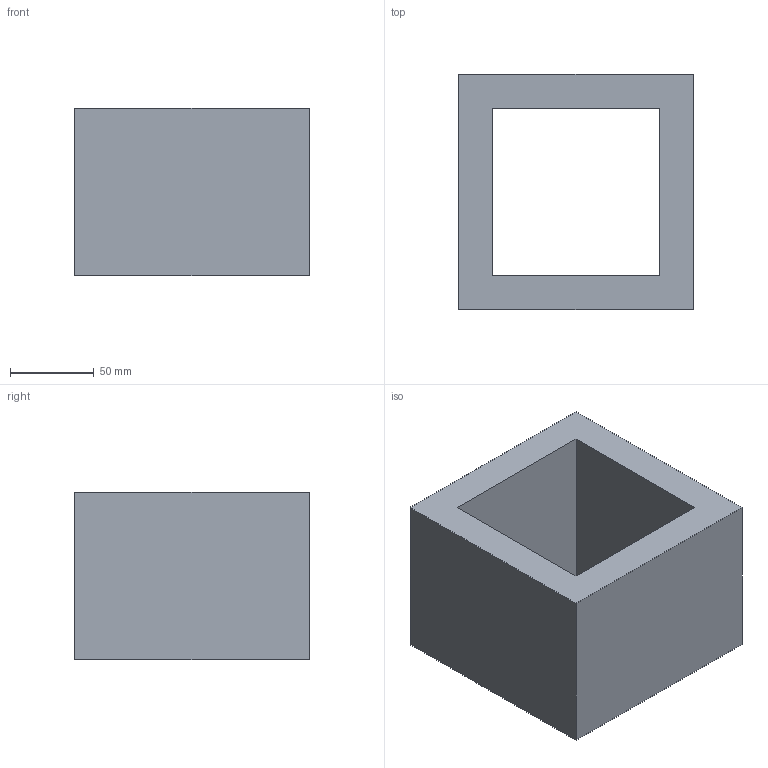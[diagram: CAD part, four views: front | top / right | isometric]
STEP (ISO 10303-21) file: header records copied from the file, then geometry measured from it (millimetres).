
FILE_DESCRIPTION (( 'STEP AP203' ), '1' );
FILE_NAME ('Bati100_Défaut_sldprt.STEP', '2018-09-18T07:23:33', ( '' ), ( '' ), 'SwSTEP 2.0', 'SolidWorks 2015', '' );
FILE_SCHEMA (( 'CONFIG_CONTROL_DESIGN' ));
Length unit declared in the file: millimetre
Products named in the file (1): Bati100_Défaut_sldprt
Bounding box: 140 x 140 x 100 mm (x, y, z)
Volume: 960000 mm3; surface area: 115200 mm2
Topology: 1 solids, 1 shells, 10 faces, 24 edges, 16 vertices
Faces by surface type: plane 10
Entity records: 369 total; most frequent: CARTESIAN_POINT 51, ORIENTED_EDGE 48, DIRECTION 46, EDGE_CURVE 24, VECTOR 24, LINE 24, VERTEX_POINT 16, EDGE_LOOP 12
